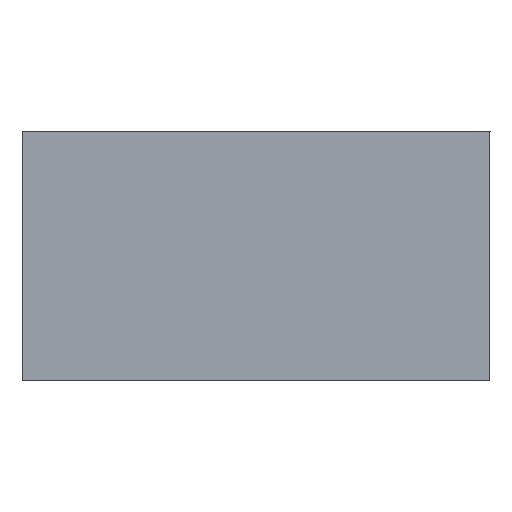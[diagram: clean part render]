
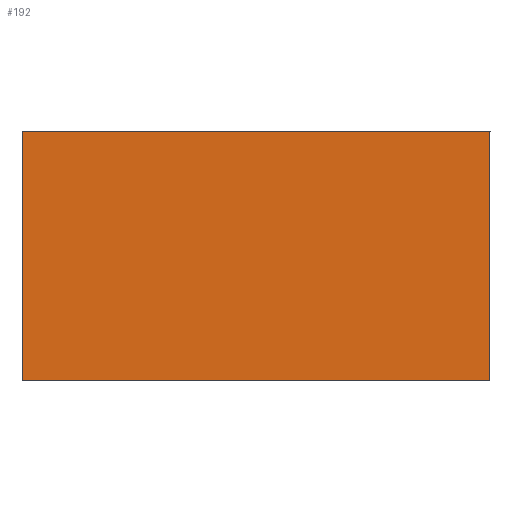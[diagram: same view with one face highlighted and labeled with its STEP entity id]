
A CAD part, left-side view. The second image highlights one B-rep face of the part: STEP entity #192.
In plain terms, the highlighted planar face has unit normal (-1, 0, 0).
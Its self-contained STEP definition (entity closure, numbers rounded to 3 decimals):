
#31=FACE_OUTER_BOUND('',#43,.T.);
#43=EDGE_LOOP('',(#156,#157,#158,#159));
#60=LINE('',#302,#78);
#66=LINE('',#322,#84);
#67=LINE('',#324,#85);
#68=LINE('',#325,#86);
#78=VECTOR('',#247,10.);
#84=VECTOR('',#267,10.);
#85=VECTOR('',#268,10.);
#86=VECTOR('',#269,10.);
#96=VERTEX_POINT('',#299);
#97=VERTEX_POINT('',#301);
#104=VERTEX_POINT('',#321);
#105=VERTEX_POINT('',#323);
#114=EDGE_CURVE('',#96,#97,#60,.T.);
#124=EDGE_CURVE('',#96,#104,#66,.T.);
#125=EDGE_CURVE('',#105,#104,#67,.T.);
#126=EDGE_CURVE('',#97,#105,#68,.T.);
#156=ORIENTED_EDGE('',*,*,#114,.F.);
#157=ORIENTED_EDGE('',*,*,#124,.T.);
#158=ORIENTED_EDGE('',*,*,#125,.F.);
#159=ORIENTED_EDGE('',*,*,#126,.F.);
#182=PLANE('',#223);
#192=ADVANCED_FACE('',(#31),#182,.T.);
#223=AXIS2_PLACEMENT_3D('',#320,#265,#266);
#247=DIRECTION('',(0.,0.,-1.));
#265=DIRECTION('center_axis',(-1.,0.,0.));
#266=DIRECTION('ref_axis',(0.,0.,1.));
#267=DIRECTION('',(0.,1.,0.));
#268=DIRECTION('',(0.,0.,1.));
#269=DIRECTION('',(0.,1.,0.));
#299=CARTESIAN_POINT('',(-346.5,338.,-300.));
#301=CARTESIAN_POINT('',(-346.5,338.,-315.));
#302=CARTESIAN_POINT('',(-346.5,338.,-300.));
#320=CARTESIAN_POINT('Origin',(-346.5,338.,-315.));
#321=CARTESIAN_POINT('',(-346.5,346.,-300.));
#322=CARTESIAN_POINT('',(-346.5,338.,-300.));
#323=CARTESIAN_POINT('',(-346.5,346.,-315.));
#324=CARTESIAN_POINT('',(-346.5,346.,-300.));
#325=CARTESIAN_POINT('',(-346.5,338.,-315.));
